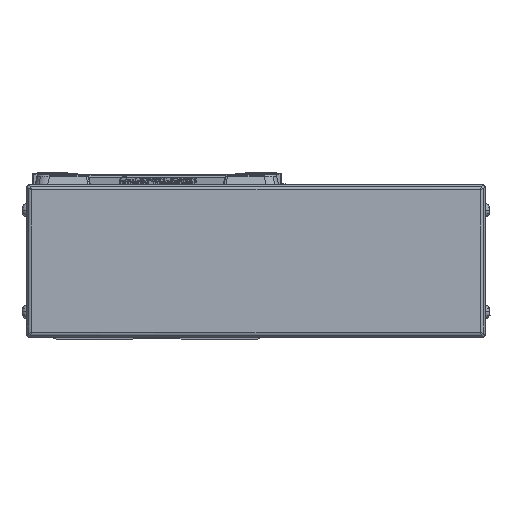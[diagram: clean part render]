
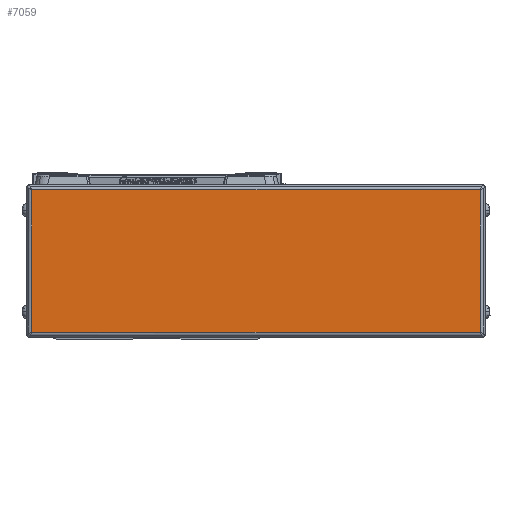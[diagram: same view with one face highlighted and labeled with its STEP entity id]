
A CAD part, left-side view. The second image highlights one B-rep face of the part: STEP entity #7059.
In plain terms, the highlighted planar face has unit normal (-1, 0, 0).
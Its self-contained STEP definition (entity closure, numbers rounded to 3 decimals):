
#7059=ADVANCED_FACE('',(#14241),#14242,.T.);
#14241=FACE_OUTER_BOUND('',#22180,.T.);
#14242=PLANE('',#22181);
#22180=EDGE_LOOP('',(#42305,#42306,#42307,#42308));
#22181=AXIS2_PLACEMENT_3D('',#42309,#42310,#42311);
#42305=ORIENTED_EDGE('',*,*,#48161,.F.);
#42306=ORIENTED_EDGE('',*,*,#45078,.F.);
#42307=ORIENTED_EDGE('',*,*,#43520,.F.);
#42308=ORIENTED_EDGE('',*,*,#46036,.F.);
#42309=CARTESIAN_POINT('',(-616.,-39.,0.));
#42310=DIRECTION('',(-1.0,0.,0.));
#42311=DIRECTION('',(0.,0.,1.0));
#43520=EDGE_CURVE('',#51835,#51837,#51838,.T.);
#45078=EDGE_CURVE('',#51837,#54525,#54526,.T.);
#46036=EDGE_CURVE('',#56075,#51835,#56077,.T.);
#48161=EDGE_CURVE('',#54525,#56075,#59330,.T.);
#51835=VERTEX_POINT('',#63921);
#51837=VERTEX_POINT('',#63923);
#51838=LINE('',#63924,#63925);
#54525=VERTEX_POINT('',#67571);
#54526=LINE('',#67572,#67573);
#56075=VERTEX_POINT('',#69692);
#56077=LINE('',#69694,#69695);
#59330=LINE('',#74047,#74048);
#63921=CARTESIAN_POINT('',(-616.,-127.2,-28.));
#63923=CARTESIAN_POINT('',(-616.0,49.2,-28.));
#63924=CARTESIAN_POINT('',(-616.,-39.,-28.));
#63925=VECTOR('',#79915,10.0);
#67571=CARTESIAN_POINT('',(-616.,49.2,28.));
#67572=CARTESIAN_POINT('',(-616.0,49.2,0.));
#67573=VECTOR('',#82087,10.0);
#69692=CARTESIAN_POINT('',(-616.,-127.2,28.));
#69694=CARTESIAN_POINT('',(-616.,-127.2,0.));
#69695=VECTOR('',#83281,10.0);
#74047=CARTESIAN_POINT('',(-616.,-39.,28.));
#74048=VECTOR('',#86110,10.0);
#79915=DIRECTION('',(0.,1.0,0.));
#82087=DIRECTION('',(0.,0.,1.0));
#83281=DIRECTION('',(0.,0.,-1.0));
#86110=DIRECTION('',(0.,-1.0,0.));
